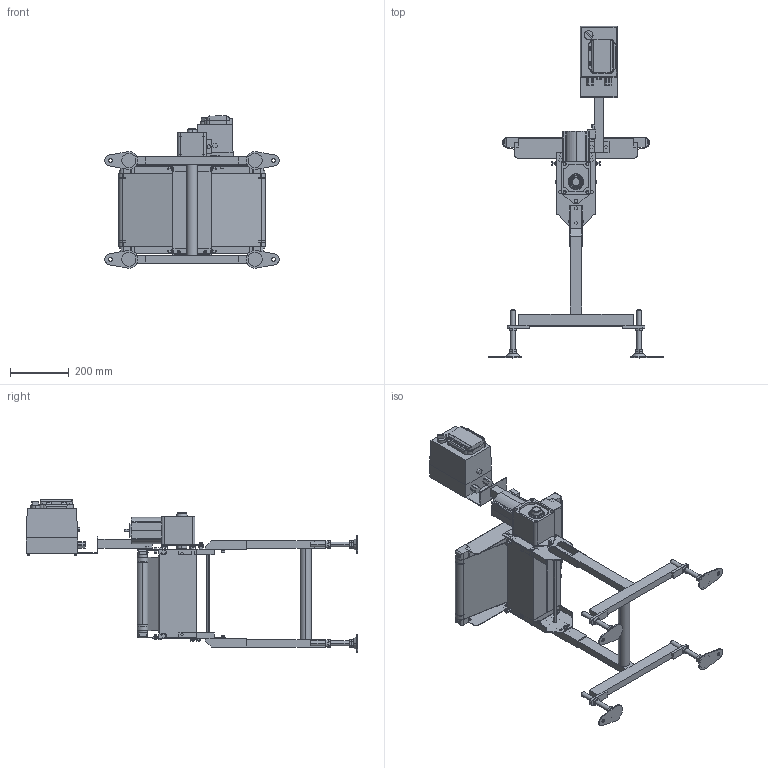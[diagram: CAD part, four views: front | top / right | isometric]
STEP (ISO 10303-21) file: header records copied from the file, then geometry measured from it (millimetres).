
FILE_DESCRIPTION (( 'STEP AP214' ), '1' );
FILE_NAME ('FSDHS-250-500-L.STEP', '2023-04-20T09:16:05', ( '' ), ( '' ), 'SwSTEP 2.0', 'SolidWorks 2017', '' );
FILE_SCHEMA (( 'AUTOMOTIVE_DESIGN' ));
Length unit declared in the file: millimetre
Products named in the file (1): FSDHS-250-500-L
Bounding box: 594 x 1131 x 519.99 mm (x, y, z)
Volume: 14639501.1 mm3; surface area: 2507445.8 mm2
Topology: 46 solids, 48 shells, 1758 faces, 4365 edges, 2866 vertices
Faces by surface type: plane 1175, cylinder 540, cone 29, bspline 14
Entity records: 73980 total; most frequent: CARTESIAN_POINT 11192, DIRECTION 8967, ORIENTED_EDGE 8726, EDGE_CURVE 4363, VECTOR 3103, LINE 3103, AXIS2_PLACEMENT_3D 2932, VERTEX_POINT 2866
